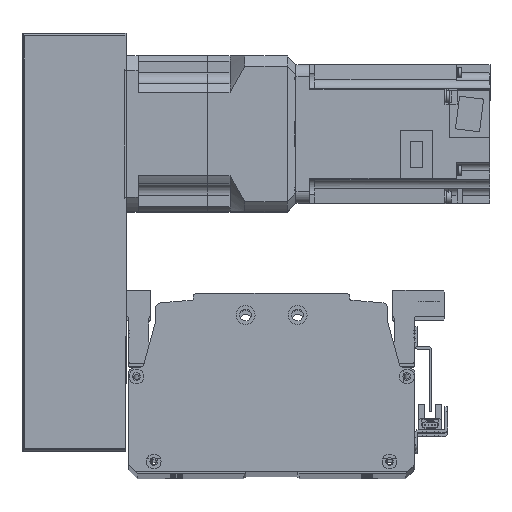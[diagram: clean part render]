
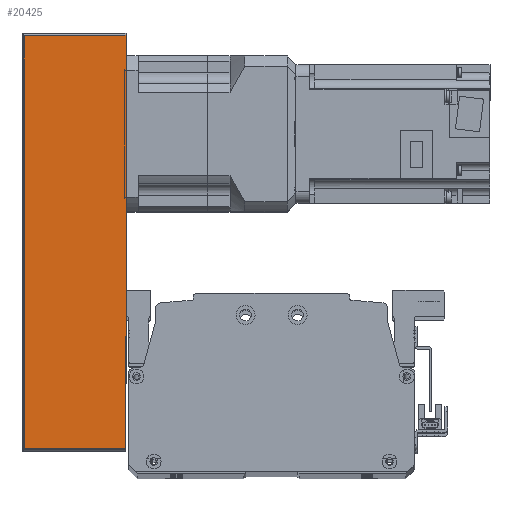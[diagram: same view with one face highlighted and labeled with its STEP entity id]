
A CAD part, top view. The second image highlights one B-rep face of the part: STEP entity #20425.
In plain terms, the highlighted planar face has unit normal (0, 0, 1) as drawn and (0, -1, 0) by its records, which use the part's own axes.
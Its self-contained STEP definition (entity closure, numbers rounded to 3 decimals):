
#611=PLANE('',#22311);
#1732=LINE('',#32875,#3392);
#1755=LINE('',#32962,#3415);
#1756=LINE('',#32970,#3416);
#1764=LINE('',#32996,#3424);
#3392=VECTOR('',#26627,10.);
#3415=VECTOR('',#26738,10.);
#3416=VECTOR('',#26749,10.);
#3424=VECTOR('',#26785,10.);
#5476=FACE_OUTER_BOUND('',#6972,.T.);
#6972=EDGE_LOOP('',(#16618,#16619,#16620,#16621));
#9904=VERTEX_POINT('',#32872);
#9905=VERTEX_POINT('',#32874);
#9925=VERTEX_POINT('',#32958);
#9926=VERTEX_POINT('',#32964);
#12295=EDGE_CURVE('',#9904,#9905,#1732,.T.);
#12340=EDGE_CURVE('',#9905,#9925,#1755,.T.);
#12344=EDGE_CURVE('',#9926,#9904,#1756,.T.);
#12358=EDGE_CURVE('',#9925,#9926,#1764,.T.);
#16618=ORIENTED_EDGE('',*,*,#12340,.F.);
#16619=ORIENTED_EDGE('',*,*,#12295,.F.);
#16620=ORIENTED_EDGE('',*,*,#12344,.F.);
#16621=ORIENTED_EDGE('',*,*,#12358,.F.);
#20425=ADVANCED_FACE('',(#5476),#611,.T.);
#22311=AXIS2_PLACEMENT_3D('',#33001,#26794,#26795);
#26627=DIRECTION('',(1.,0.,0.));
#26738=DIRECTION('',(0.,0.,-1.));
#26749=DIRECTION('',(0.,0.,1.));
#26785=DIRECTION('',(-1.,0.,0.));
#26794=DIRECTION('center_axis',(0.,-1.,0.));
#26795=DIRECTION('ref_axis',(1.,0.,0.));
#32872=CARTESIAN_POINT('',(-119.5,-51.,30.));
#32874=CARTESIAN_POINT('',(119.5,-51.,30.));
#32875=CARTESIAN_POINT('',(120.5,-51.,30.));
#32958=CARTESIAN_POINT('',(119.5,-51.,-29.));
#32962=CARTESIAN_POINT('',(119.5,-51.,0.));
#32964=CARTESIAN_POINT('',(-119.5,-51.,-29.));
#32970=CARTESIAN_POINT('',(-119.5,-51.,0.));
#32996=CARTESIAN_POINT('',(-60.25,-51.,-29.));
#33001=CARTESIAN_POINT('Origin',(-120.5,-51.,0.));
